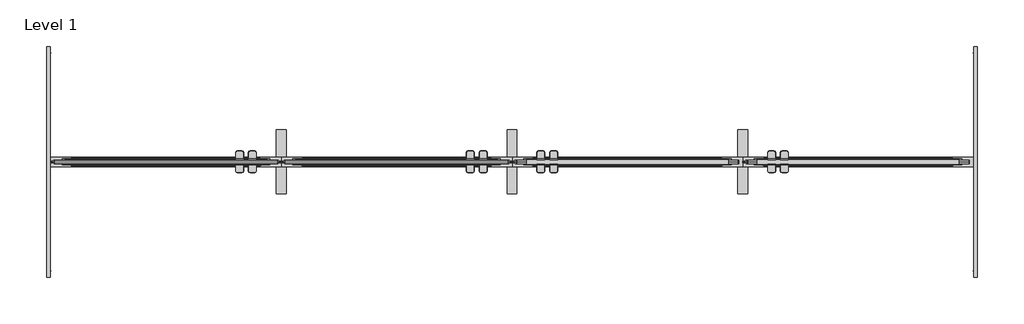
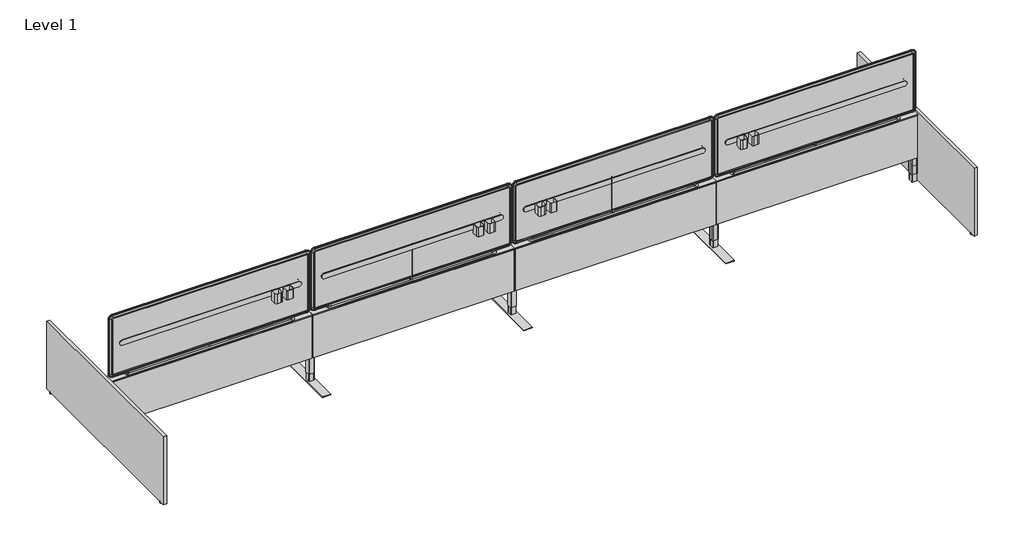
# One storey, incomplete: 31 furniture elements.
"""IFC4 building model written with IfcOpenShell, lengths in millimetres."""

from ifc_helpers import new_model, si_unit, origin, place, context, project, spatial, transform, mapped, element, save
from components import haworth_belong_tool_cup_tool_cup_314b2932, haworth_belong_tool_cup_tool_cup_d6d42e5e, haworth_composeconnections_leg_leg_0e747890, haworth_composeconnections_leg_leg_c535c5f3, haworth_composeconnections_leg_leg_f7771f14, haworth_composeconnections_panel_solid_72w_26h_88b36853, haworth_composeecho_accessoryframe_72w_24h_c86ca548, haworth_composeecho_accessoryframe_72w_24h_1963754a, furniture_9b25c237, furniture_bea0f818

model = new_model("IFC4")

# Units and contexts
model_context = context("Model", 3, world=origin())
ifc_project = project(units=[si_unit("LENGTHUNIT", "METRE", prefix="MILLI")], contexts=[model_context])

# Site, building, storey
site = spatial("IfcSite", under=ifc_project)
building = spatial("IfcBuilding", under=site)
storey = spatial("IfcBuildingStorey", under=building, Name="Level 1", Elevation=0.0)

# Furniture
placement = place(None, origin())
haworth_belong_tool_cup_tool_cup_shape = haworth_belong_tool_cup_tool_cup_314b2932(model_context)
element("IfcFurniture", 1, ObjectType="Haworth_Belong_Tool_Cup : Tool Cup", at=placement, inside=storey, context=model_context, shape_type="MappedRepresentation", body=[
    mapped(haworth_belong_tool_cup_tool_cup_shape, transform((5931.0447121, 375.8717036, 907.68805), x_axis=(1.0, 0.0, 0.0), y_axis=(0.0, 1.0, 0.0), z_axis=(0.0, 0.0, 1.0))),
])
element("IfcFurniture", 2, ObjectType="Haworth_Belong_Tool_Cup : Tool Cup", at=placement, inside=storey, context=model_context, shape_type="MappedRepresentation", body=[
    mapped(haworth_belong_tool_cup_tool_cup_shape, transform((6032.6447121, 375.8717036, 907.68805), x_axis=(1.0, 0.0, 0.0), y_axis=(0.0, 1.0, 0.0), z_axis=(0.0, 0.0, 1.0))),
])
element("IfcFurniture", 3, ObjectType="Haworth_Belong_Tool_Cup : Tool Cup", at=placement, inside=storey, context=model_context, shape_type="MappedRepresentation", body=[
    mapped(haworth_belong_tool_cup_tool_cup_shape, transform((4102.2447121, 375.8717036, 907.68805), x_axis=(1.0, 0.0, 0.0), y_axis=(0.0, 1.0, 0.0), z_axis=(0.0, 0.0, 1.0))),
])
element("IfcFurniture", 4, ObjectType="Haworth_Belong_Tool_Cup : Tool Cup", at=placement, inside=storey, context=model_context, shape_type="MappedRepresentation", body=[
    mapped(haworth_belong_tool_cup_tool_cup_shape, transform((4203.8447121, 375.8717036, 907.68805), x_axis=(1.0, 0.0, 0.0), y_axis=(0.0, 1.0, 0.0), z_axis=(0.0, 0.0, 1.0))),
])
element("IfcFurniture", 5, ObjectType="Haworth_Belong_Tool_Cup : Tool Cup", at=placement, inside=storey, context=model_context, shape_type="MappedRepresentation", body=[
    mapped(haworth_belong_tool_cup_tool_cup_shape, transform((3974.8662371, 421.9089805, 907.68805), x_axis=(-1.0, 0.0, 0.0), y_axis=(0.0, -1.0, 0.0), z_axis=(0.0, 0.0, 1.0))),
])
element("IfcFurniture", 6, ObjectType="Haworth_Belong_Tool_Cup : Tool Cup", at=placement, inside=storey, context=model_context, shape_type="MappedRepresentation", body=[
    mapped(haworth_belong_tool_cup_tool_cup_shape, transform((3873.2662371, 421.9089805, 907.68805), x_axis=(-1.0, 0.0, 0.0), y_axis=(0.0, -1.0, 0.0), z_axis=(0.0, 0.0, 1.0))),
])
element("IfcFurniture", 7, ObjectType="Haworth_Belong_Tool_Cup : Tool Cup", at=placement, inside=storey, context=model_context, shape_type="MappedRepresentation", body=[
    mapped(haworth_belong_tool_cup_tool_cup_shape, transform((2146.0662371, 421.9089805, 907.68805), x_axis=(-1.0, 0.0, 0.0), y_axis=(0.0, -1.0, 0.0), z_axis=(0.0, 0.0, 1.0))),
])
element("IfcFurniture", 8, ObjectType="Haworth_Belong_Tool_Cup : Tool Cup", at=placement, inside=storey, context=model_context, shape_type="MappedRepresentation", body=[
    mapped(haworth_belong_tool_cup_tool_cup_shape, transform((2044.4662371, 421.9089805, 907.68805), x_axis=(-1.0, 0.0, 0.0), y_axis=(0.0, -1.0, 0.0), z_axis=(0.0, 0.0, 1.0))),
])
haworth_belong_tool_cup_tool_cup_2_shape = haworth_belong_tool_cup_tool_cup_d6d42e5e(model_context)
element("IfcFurniture", 9, ObjectType="Haworth_Belong_Tool_Cup : Tool Cup", at=placement, inside=storey, context=model_context, shape_type="MappedRepresentation", body=[
    mapped(haworth_belong_tool_cup_tool_cup_2_shape, transform((5931.0447121, 421.9089805, 907.68805), x_axis=(1.0, 0.0, 0.0), y_axis=(0.0, 1.0, 0.0), z_axis=(0.0, 0.0, 1.0))),
])
element("IfcFurniture", 10, ObjectType="Haworth_Belong_Tool_Cup : Tool Cup", at=placement, inside=storey, context=model_context, shape_type="MappedRepresentation", body=[
    mapped(haworth_belong_tool_cup_tool_cup_2_shape, transform((6032.6447121, 421.9089805, 907.68805), x_axis=(1.0, 0.0, 0.0), y_axis=(0.0, 1.0, 0.0), z_axis=(0.0, 0.0, 1.0))),
])
element("IfcFurniture", 11, ObjectType="Haworth_Belong_Tool_Cup : Tool Cup", at=placement, inside=storey, context=model_context, shape_type="MappedRepresentation", body=[
    mapped(haworth_belong_tool_cup_tool_cup_2_shape, transform((4102.2447121, 421.9089805, 907.68805), x_axis=(1.0, 0.0, 0.0), y_axis=(0.0, 1.0, 0.0), z_axis=(0.0, 0.0, 1.0))),
])
element("IfcFurniture", 12, ObjectType="Haworth_Belong_Tool_Cup : Tool Cup", at=placement, inside=storey, context=model_context, shape_type="MappedRepresentation", body=[
    mapped(haworth_belong_tool_cup_tool_cup_2_shape, transform((4203.8447121, 421.9089805, 907.68805), x_axis=(1.0, 0.0, 0.0), y_axis=(0.0, 1.0, 0.0), z_axis=(0.0, 0.0, 1.0))),
])
element("IfcFurniture", 13, ObjectType="Haworth_Belong_Tool_Cup : Tool Cup", at=placement, inside=storey, context=model_context, shape_type="MappedRepresentation", body=[
    mapped(haworth_belong_tool_cup_tool_cup_2_shape, transform((3974.8662371, 375.8717036, 907.68805), x_axis=(-1.0, 0.0, 0.0), y_axis=(0.0, -1.0, 0.0), z_axis=(0.0, 0.0, 1.0))),
])
element("IfcFurniture", 14, ObjectType="Haworth_Belong_Tool_Cup : Tool Cup", at=placement, inside=storey, context=model_context, shape_type="MappedRepresentation", body=[
    mapped(haworth_belong_tool_cup_tool_cup_2_shape, transform((3873.2662371, 375.8717036, 907.68805), x_axis=(-1.0, 0.0, 0.0), y_axis=(0.0, -1.0, 0.0), z_axis=(0.0, 0.0, 1.0))),
])
element("IfcFurniture", 15, ObjectType="Haworth_Belong_Tool_Cup : Tool Cup", at=placement, inside=storey, context=model_context, shape_type="MappedRepresentation", body=[
    mapped(haworth_belong_tool_cup_tool_cup_2_shape, transform((2146.0662371, 375.8717036, 907.68805), x_axis=(-1.0, 0.0, 0.0), y_axis=(0.0, -1.0, 0.0), z_axis=(0.0, 0.0, 1.0))),
])
element("IfcFurniture", 16, ObjectType="Haworth_Belong_Tool_Cup : Tool Cup", at=placement, inside=storey, context=model_context, shape_type="MappedRepresentation", body=[
    mapped(haworth_belong_tool_cup_tool_cup_2_shape, transform((2044.4662371, 375.8717036, 907.68805), x_axis=(-1.0, 0.0, 0.0), y_axis=(0.0, -1.0, 0.0), z_axis=(0.0, 0.0, 1.0))),
])
haworth_composeconnections_leg_leg_shape = haworth_composeconnections_leg_leg_0e747890(model_context)
element("IfcFurniture", 17, ObjectType="Haworth_ComposeConnections_Leg : Leg", at=placement, inside=storey, context=model_context, shape_type="MappedRepresentation", body=[
    mapped(haworth_composeconnections_leg_leg_shape, transform((2393.9054746, 326.1368655, 0.0), x_axis=(-1.0, 0.0, 0.0), y_axis=(0.0, -1.0, 0.0), z_axis=(0.0, 0.0, 1.0))),
])
element("IfcFurniture", 18, ObjectType="Haworth_ComposeConnections_Leg : Leg", at=placement, inside=storey, context=model_context, shape_type="MappedRepresentation", body=[
    mapped(haworth_composeconnections_leg_leg_shape, transform((4222.7054746, 326.1368655, 0.0), x_axis=(-1.0, 0.0, 0.0), y_axis=(0.0, -1.0, 0.0), z_axis=(0.0, 0.0, 1.0))),
])
element("IfcFurniture", 19, ObjectType="Haworth_ComposeConnections_Leg : Leg", at=placement, inside=storey, context=model_context, shape_type="MappedRepresentation", body=[
    mapped(haworth_composeconnections_leg_leg_shape, transform((6051.5054746, 326.1368655, 0.0), x_axis=(-1.0, 0.0, 0.0), y_axis=(0.0, -1.0, 0.0), z_axis=(0.0, 0.0, 1.0))),
])
haworth_composeconnections_leg_leg_2_shape = haworth_composeconnections_leg_leg_c535c5f3(model_context)
element("IfcFurniture", 20, ObjectType="Haworth_ComposeConnections_Leg : Leg", at=placement, inside=storey, context=model_context, shape_type="MappedRepresentation", body=[
    mapped(haworth_composeconnections_leg_leg_2_shape, transform((7854.8856308, 326.1368655, 0.0), x_axis=(-1.0, 0.0, 0.0), y_axis=(0.0, -1.0, 0.0), z_axis=(0.0, 0.0, 1.0))),
])
haworth_composeconnections_leg_leg_3_shape = haworth_composeconnections_leg_leg_f7771f14(model_context)
element("IfcFurniture", 21, ObjectType="Haworth_ComposeConnections_Leg : Leg", at=placement, inside=storey, context=model_context, shape_type="MappedRepresentation", body=[
    mapped(haworth_composeconnections_leg_leg_3_shape, transform((222.2253183, 326.1368655, 0.0), x_axis=(1.0, 0.0, 0.0), y_axis=(0.0, 1.0, 0.0), z_axis=(0.0, 0.0, 1.0))),
])
haworth_composeconnections_panel_solid_72w_26h_shape = haworth_composeconnections_panel_solid_72w_26h_88b36853(model_context)
element("IfcFurniture", 22, ObjectType="Haworth_ComposeConnections_Panel_Solid : 72w 26h", at=placement, inside=storey, context=model_context, shape_type="MappedRepresentation", body=[
    mapped(haworth_composeconnections_panel_solid_72w_26h_shape, transform((1293.2604375, 398.890342, 0.0), x_axis=(1.0, 0.0, 0.0), y_axis=(0.0, 1.0, 0.0), z_axis=(0.0, 0.0, 1.0))),
])
element("IfcFurniture", 23, ObjectType="Haworth_ComposeConnections_Panel_Solid : 72w 26h", at=placement, inside=storey, context=model_context, shape_type="MappedRepresentation", body=[
    mapped(haworth_composeconnections_panel_solid_72w_26h_shape, transform((3122.0604375, 398.890342, 0.0), x_axis=(1.0, 0.0, 0.0), y_axis=(0.0, 1.0, 0.0), z_axis=(0.0, 0.0, 1.0))),
])
element("IfcFurniture", 24, ObjectType="Haworth_ComposeConnections_Panel_Solid : 72w 26h", at=placement, inside=storey, context=model_context, shape_type="MappedRepresentation", body=[
    mapped(haworth_composeconnections_panel_solid_72w_26h_shape, transform((4950.5151844, 398.890342, 0.0), x_axis=(1.0, 0.0, 0.0), y_axis=(0.0, 1.0, 0.0), z_axis=(0.0, 0.0, 1.0))),
])
element("IfcFurniture", 25, ObjectType="Haworth_ComposeConnections_Panel_Solid : 72w 26h", at=placement, inside=storey, context=model_context, shape_type="MappedRepresentation", body=[
    mapped(haworth_composeconnections_panel_solid_72w_26h_shape, transform((6779.3151844, 398.890342, 0.0), x_axis=(1.0, 0.0, 0.0), y_axis=(0.0, 1.0, 0.0), z_axis=(0.0, 0.0, 1.0))),
])
haworth_composeecho_accessoryframe_72w_24h_shape = haworth_composeecho_accessoryframe_72w_24h_c86ca548(model_context)
element("IfcFurniture", 26, ObjectType="Haworth_ComposeEcho_AccessoryFrame : 72w 24h", at=placement, inside=storey, context=model_context, shape_type="MappedRepresentation", body=[
    mapped(haworth_composeecho_accessoryframe_72w_24h_shape, transform((3121.7151844, 398.890342, -419.1), x_axis=(1.0, 0.0, 0.0), y_axis=(0.0, 1.0, 0.0), z_axis=(0.0, 0.0, 1.0))),
])
element("IfcFurniture", 27, ObjectType="Haworth_ComposeEcho_AccessoryFrame : 72w 24h", at=placement, inside=storey, context=model_context, shape_type="MappedRepresentation", body=[
    mapped(haworth_composeecho_accessoryframe_72w_24h_shape, transform((1292.9151844, 398.890342, -419.1), x_axis=(1.0, 0.0, 0.0), y_axis=(0.0, 1.0, 0.0), z_axis=(0.0, 0.0, 1.0))),
])
haworth_composeecho_accessoryframe_72w_24h_2_shape = haworth_composeecho_accessoryframe_72w_24h_1963754a(model_context)
element("IfcFurniture", 28, ObjectType="Haworth_ComposeEcho_AccessoryFrame : 72w 24h", at=placement, inside=storey, context=model_context, shape_type="MappedRepresentation", body=[
    mapped(haworth_composeecho_accessoryframe_72w_24h_2_shape, transform((6784.1957647, 398.890342, -419.1), x_axis=(-1.0, 0.0, 0.0), y_axis=(0.0, -1.0, 0.0), z_axis=(0.0, 0.0, 1.0))),
])
element("IfcFurniture", 29, ObjectType="Haworth_ComposeEcho_AccessoryFrame : 72w 24h", at=placement, inside=storey, context=model_context, shape_type="MappedRepresentation", body=[
    mapped(haworth_composeecho_accessoryframe_72w_24h_2_shape, transform((4955.3957647, 398.890342, -419.1), x_axis=(-1.0, 0.0, 0.0), y_axis=(0.0, -1.0, 0.0), z_axis=(0.0, 0.0, 1.0))),
])
furniture_shape = furniture_9b25c237(model_context)
element("IfcFurniture", 30, ObjectType="Haworth_Haworth_Belong_GalleryPanel_NA : 26\" H", at=placement, inside=storey, context=model_context, shape_type="MappedRepresentation", body=[
    mapped(furniture_shape, transform((365.2987002, 366.2257984, 0.0), x_axis=(0.0, -1.0, 0.0), y_axis=(1.0, 0.0, 0.0), z_axis=(0.0, 0.0, 1.0))),
])
furniture_2_shape = furniture_bea0f818(model_context)
element("IfcFurniture", 31, ObjectType="Haworth_Haworth_Belong_GalleryPanel_NA : 26\" H", at=placement, inside=storey, context=model_context, shape_type="MappedRepresentation", body=[
    mapped(furniture_2_shape, transform((7711.8122489, 366.2257984, 0.0), x_axis=(0.0, -1.0, 0.0), y_axis=(1.0, 0.0, 0.0), z_axis=(0.0, 0.0, 1.0))),
])

save(model, "model.ifc")
